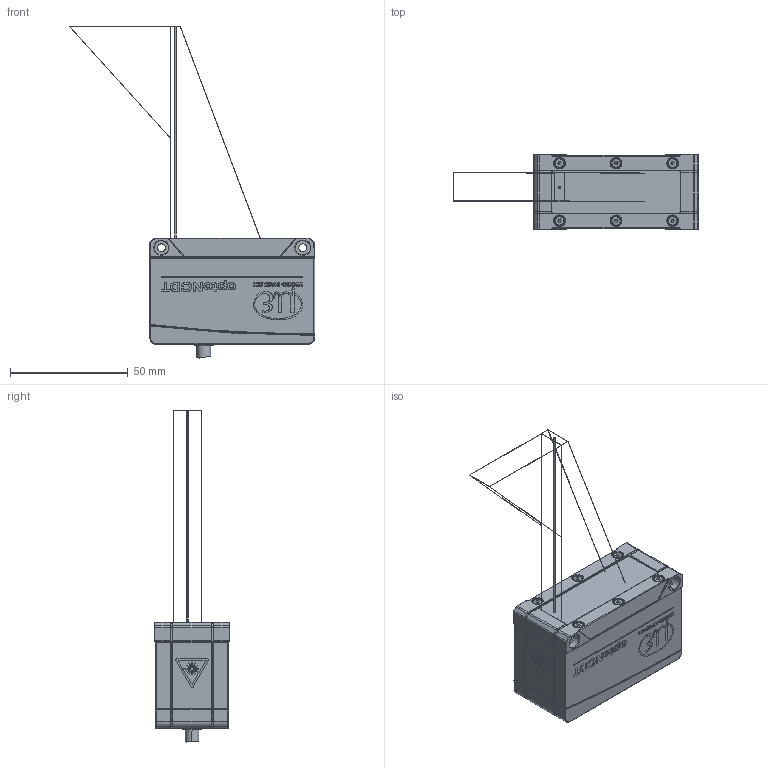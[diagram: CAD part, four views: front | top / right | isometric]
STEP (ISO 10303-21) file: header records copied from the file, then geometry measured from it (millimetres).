
FILE_DESCRIPTION (( 'STEP AP214' ), '1' );
FILE_NAME ('free_space_optoNCDT_1900-50.STEP', '2020-05-06T14:32:45', ( '' ), ( '' ), 'SwSTEP 2.0', 'SolidWorks 2018', '' );
FILE_SCHEMA (( 'AUTOMOTIVE_DESIGN' ));
Length unit declared in the file: millimetre
Products named in the file (2): free_space_optoNCDT_1900-50
Bounding box: 104.21 x 32 x 140.84 mm (x, y, z)
Volume: 95804.2 mm3; surface area: 15807.6 mm2
Topology: 4 solids, 4 shells, 2230 faces, 5826 edges, 3722 vertices
Faces by surface type: plane 964, bspline 813, cylinder 271, torus 87, cone 87, sphere 8
Entity records: 107389 total; most frequent: CARTESIAN_POINT 33911, ORIENTED_EDGE 11596, DIRECTION 7604, EDGE_CURVE 5798, VERTEX_POINT 3722, LINE 3306, VECTOR 3306, EDGE_LOOP 2382
